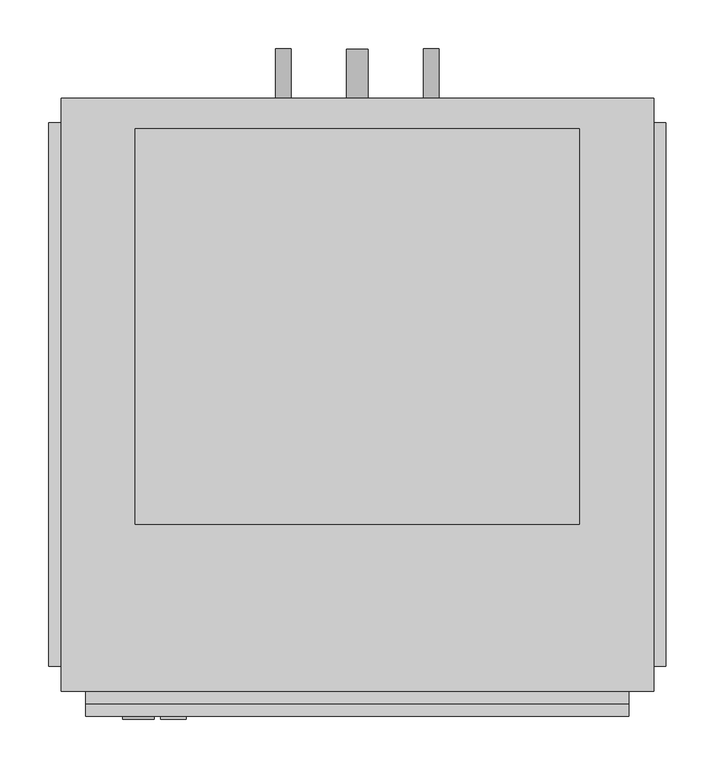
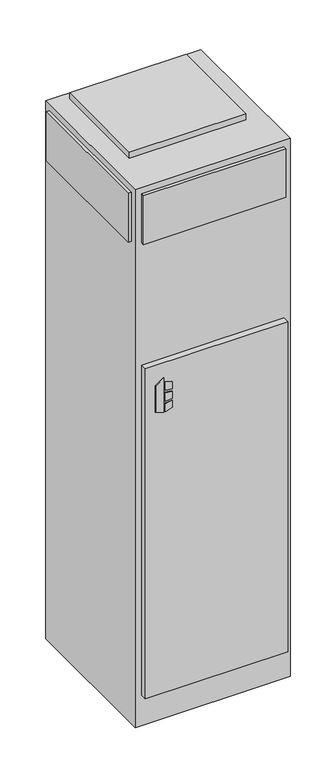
"""IFC4 building model written with IfcOpenShell, lengths in millimetres: proxy geometry, Concealed_Modular_Fan_Coil_Unit_-_MPY_-_IEC_-_2-Pipe_Cool-EHeat_-_NoRisers_2022 : Size 10 - 277v/60Hz/1Ph - 4 Row 8.0kW."""

from ifc_helpers import new_model, si_unit, point, frame, frame_2d, origin, origin_with_axes, place, context, project, spatial, polyline, circle_curve, trimmed, segment, composite_curve, outline, extrude, source, transform, mapped, element, save


def mechanical_equipment_857d9a1e(model_context):
    return source(origin(), model_context, "Body", "SweptSolid", [
        extrude(outline(polyline([(1305.3480703, 215.9), (1295.4, 248.0733866), (1437.5709244, 248.0733866), (1414.5489183, 215.9), (1305.3480703, 215.9)])), frame((0.0, -393.7, 0.0), z_axis=(0.0, 1.0, 0.0), x_axis=(0.0, 0.0, 1.0)), (0.0, 0.0, 1.0), 3.175),
        extrude(outline(polyline([(1384.3473557, 254.8317195), (1381.1449632, 280.9131138), (1410.3738042, 280.9131138), (1418.4382193, 254.8317195), (1384.3473557, 254.8317195)])), frame((0.0, -393.7, 0.0), z_axis=(0.0, 1.0, 0.0), x_axis=(0.0, 0.0, 1.0)), (0.0, 0.0, 1.0), 3.175),
        extrude(outline(polyline([(1332.4838288, 280.9131138), (1328.8183279, 254.8317195), (1295.4, 254.8317195), (1304.0342372, 280.9131138), (1332.4838288, 280.9131138)])), frame((0.0, -393.7, 0.0), z_axis=(0.0, 1.0, 0.0), x_axis=(0.0, 0.0, 1.0)), (0.0, 0.0, 1.0), 3.175),
        extrude(outline(polyline([(1371.7989903, 280.9131138), (1374.0808166, 254.8317195), (1338.1432681, 254.8317195), (1340.8845331, 280.9131138), (1371.7989903, 280.9131138)])), frame((0.0, -393.7, 0.0), z_axis=(0.0, 1.0, 0.0), x_axis=(0.0, 0.0, 1.0)), (0.0, 0.0, 1.0), 3.175),
        extrude(outline(composite_curve([segment(trimmed(circle_curve(frame_2d((990.6, 533.4)), 7.9375), [point((990.6, 525.4625))], [point((990.6, 541.3375))], False, "CARTESIAN"), True, "CONTINUOUS"), segment(trimmed(circle_curve(frame_2d((990.6, 533.4)), 7.9375), [point((990.6, 541.3375))], [point((990.6, 525.4625))], False, "CARTESIAN"), True, "CONTINUOUS")], self_intersect=False)), frame((0.0, 244.475, 0.0), z_axis=(0.0, 1.0, 0.0), x_axis=(0.0, 0.0, 1.0)), (0.0, 0.0, 1.0), 50.8),
        extrude(outline(composite_curve([segment(trimmed(circle_curve(frame_2d((990.6, 381.0)), 7.9375), [point((990.6, 373.0625))], [point((990.6, 388.9375))], False, "CARTESIAN"), True, "CONTINUOUS"), segment(trimmed(circle_curve(frame_2d((990.6, 381.0)), 7.9375), [point((990.6, 388.9375))], [point((990.6, 373.0625))], False, "CARTESIAN"), True, "CONTINUOUS")], self_intersect=False)), frame((0.0, 244.475, 0.0), z_axis=(0.0, 1.0, 0.0), x_axis=(0.0, 0.0, 1.0)), (0.0, 0.0, 1.0), 50.8),
        extrude(outline(composite_curve([segment(trimmed(circle_curve(frame_2d((76.2, 457.2)), 11.1125), [point((76.2, 446.0875))], [point((76.2, 468.3125))], False, "CARTESIAN"), True, "CONTINUOUS"), segment(trimmed(circle_curve(frame_2d((76.2, 457.2)), 11.1125), [point((76.2, 468.3125))], [point((76.2, 446.0875))], False, "CARTESIAN"), True, "CONTINUOUS")], self_intersect=False)), frame((0.0, 244.475, 0.0), z_axis=(0.0, 1.0, 0.0), x_axis=(0.0, 0.0, 1.0)), (0.0, 0.0, 1.0), 50.8),
        extrude(outline(polyline([(685.8, 212.725), (685.8, -193.675), (228.6, -193.675), (228.6, 212.725), (685.8, 212.725)])), frame((0.0, 0.0, 2235.2), z_axis=(0.0, 0.0, 1.0), x_axis=(1.0, 0.0, 0.0)), (0.0, 0.0, 1.0), 25.4),
        extrude(outline(polyline([(139.7, -339.725), (139.7, 219.075), (152.4, 219.075), (152.4, -339.725), (139.7, -339.725)])), frame((0.0, 0.0, 2006.6), z_axis=(0.0, 0.0, 1.0), x_axis=(1.0, 0.0, 0.0)), (0.0, 0.0, 1.0), 203.2),
        extrude(outline(polyline([(774.7, 219.075), (774.7, -339.725), (762.0, -339.725), (762.0, 219.075), (774.7, 219.075)])), frame((0.0, 0.0, 2006.6), z_axis=(0.0, 0.0, 1.0), x_axis=(1.0, 0.0, 0.0)), (0.0, 0.0, 1.0), 203.2),
        extrude(outline(polyline([(736.6, -377.825), (177.8, -377.825), (177.8, -365.125), (736.6, -365.125), (736.6, -377.825)])), frame((0.0, 0.0, 2006.6), z_axis=(0.0, 0.0, 1.0), x_axis=(1.0, 0.0, 0.0)), (0.0, 0.0, 1.0), 203.2),
        extrude(outline(polyline([(736.6, -390.525), (177.8, -390.525), (177.8, -365.125), (736.6, -365.125), (736.6, -390.525)])), frame((0.0, 0.0, 127.0), z_axis=(0.0, 0.0, 1.0), x_axis=(1.0, 0.0, 0.0)), (0.0, 0.0, 1.0), 1371.6),
        extrude(outline(polyline([(762.0, 244.475), (762.0, -365.125), (152.4, -365.125), (152.4, 244.475), (762.0, 244.475)])), origin_with_axes(), (0.0, 0.0, 1.0), 2235.2),
    ])


if __name__ == "__main__":
    model = new_model("IFC4")
    model_context = context("Model", 3, world=origin())
    ifc_project = project(units=[si_unit("LENGTHUNIT", "METRE", prefix="MILLI")], contexts=[model_context])
    site = spatial("IfcSite", under=ifc_project)
    building = spatial("IfcBuilding", under=site)
    placement = place(None, origin())
    mechanical_equipment_shape = mechanical_equipment_857d9a1e(model_context)
    element("IfcBuildingElementProxy", 1, Name="Concealed_Modular_Fan_Coil_Unit_-_MPY_-_IEC_-_2-Pipe_Cool-EHeat_-_NoRisers_2022 : Size 10 - 277v/60Hz/1Ph - 4 Row 8.0kW", ObjectType="Concealed_Modular_Fan_Coil_Unit_-_MPY_-_IEC_-_2-Pipe_Cool-EHeat_-_NoRisers_2022 : Size 10 - 277v/60Hz/1Ph - 4 Row 8.0kW", at=placement, inside=building, context=model_context, shape_type="MappedRepresentation", body=[
        mapped(mechanical_equipment_shape, transform((0.0, 0.0, 0.0), x_axis=(1.0, 0.0, 0.0), y_axis=(0.0, 1.0, 0.0), z_axis=(0.0, 0.0, 1.0))),
    ])
    save(model, "model.ifc")
